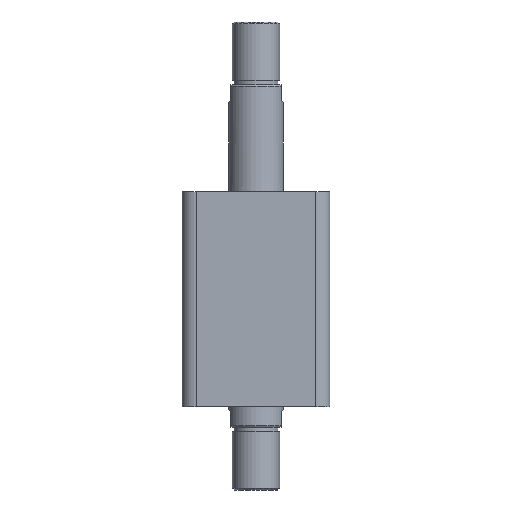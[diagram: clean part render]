
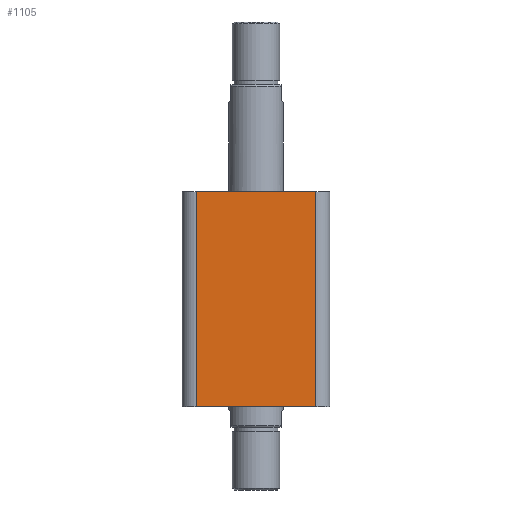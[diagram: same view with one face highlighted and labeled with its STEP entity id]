
A CAD part, front view. The second image highlights one B-rep face of the part: STEP entity #1105.
In plain terms, the highlighted planar face has unit normal (0, -1, 0).
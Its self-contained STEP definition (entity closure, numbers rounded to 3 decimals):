
#80 = VERTEX_POINT ( 'NONE', #664 ) ;
#147 = ORIENTED_EDGE ( 'NONE', *, *, #2392, .T. ) ;
#271 = FACE_OUTER_BOUND ( 'NONE', #2029, .T. ) ;
#561 = LINE ( 'NONE', #1885, #574 ) ;
#567 = LINE ( 'NONE', #1895, #570 ) ;
#569 = LINE ( 'NONE', #1897, #572 ) ;
#570 = VECTOR ( 'NONE', #1896, 1000. ) ;
#572 = VECTOR ( 'NONE', #1898, 1000. ) ;
#573 = LINE ( 'NONE', #1900, #576 ) ;
#574 = VECTOR ( 'NONE', #1899, 1000. ) ;
#576 = VECTOR ( 'NONE', #1901, 1000. ) ;
#664 = CARTESIAN_POINT ( 'NONE',  ( -38., -47., 137. ) ) ;
#865 = CARTESIAN_POINT ( 'NONE',  ( -47., -47., 137. ) ) ;
#867 = PLANE ( 'NONE',  #2987 ) ;
#869 = DIRECTION ( 'NONE',  ( 0., 1., 0. ) ) ;
#870 = DIRECTION ( 'NONE',  ( 0., 0., 1. ) ) ;
#1105 = ADVANCED_FACE ( 'NONE', ( #271 ), #867, .F. ) ;
#1489 = ORIENTED_EDGE ( 'NONE', *, *, #2389, .F. ) ;
#1490 = ORIENTED_EDGE ( 'NONE', *, *, #2390, .T. ) ;
#1491 = ORIENTED_EDGE ( 'NONE', *, *, #2391, .T. ) ;
#1597 = CARTESIAN_POINT ( 'NONE',  ( 38., -47., 137. ) ) ;
#1605 = CARTESIAN_POINT ( 'NONE',  ( 38., -47., 0. ) ) ;
#1615 = CARTESIAN_POINT ( 'NONE',  ( -38., -47., 0. ) ) ;
#1885 = CARTESIAN_POINT ( 'NONE',  ( -47., -47., 0. ) ) ;
#1895 = CARTESIAN_POINT ( 'NONE',  ( -47., -47., 137. ) ) ;
#1896 = DIRECTION ( 'NONE',  ( 1., 0., 0. ) ) ;
#1897 = CARTESIAN_POINT ( 'NONE',  ( -38., -47., 137. ) ) ;
#1898 = DIRECTION ( 'NONE',  ( 0., 0., -1. ) ) ;
#1899 = DIRECTION ( 'NONE',  ( 1., 0., 0. ) ) ;
#1900 = CARTESIAN_POINT ( 'NONE',  ( 38., -47., 137. ) ) ;
#1901 = DIRECTION ( 'NONE',  ( 0., 0., 1. ) ) ;
#2029 = EDGE_LOOP ( 'NONE', ( #1489, #1490, #1491, #147 ) ) ;
#2142 = VERTEX_POINT ( 'NONE', #1605 ) ;
#2144 = VERTEX_POINT ( 'NONE', #1597 ) ;
#2145 = VERTEX_POINT ( 'NONE', #1615 ) ;
#2389 = EDGE_CURVE ( 'NONE', #80, #2144, #567, .T. ) ;
#2390 = EDGE_CURVE ( 'NONE', #80, #2145, #569, .T. ) ;
#2391 = EDGE_CURVE ( 'NONE', #2145, #2142, #561, .T. ) ;
#2392 = EDGE_CURVE ( 'NONE', #2142, #2144, #573, .T. ) ;
#2987 = AXIS2_PLACEMENT_3D ( 'NONE', #865, #869, #870 ) ;
